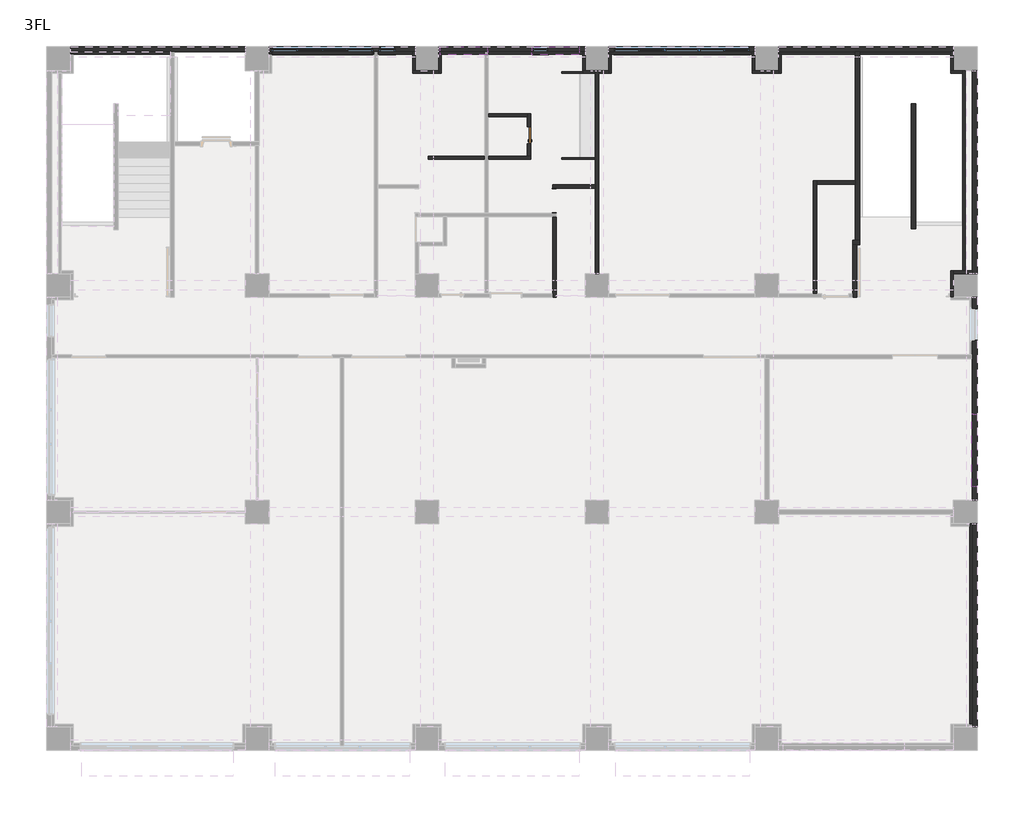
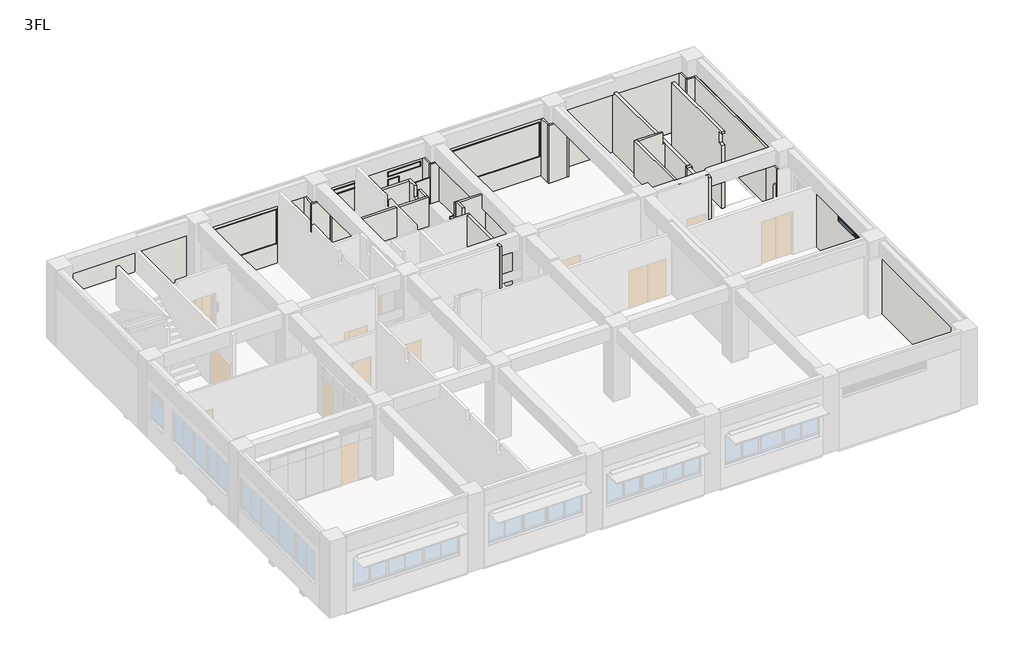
# One storey, part 3 of 6: 38 walls, 7 windows, 2 doors.
"""IFC4 building model written with IfcOpenShell, lengths in millimetres."""

from ifc_helpers import new_model, si_unit, frame, origin, place, context, project, spatial, polyline, outline, extrude, faceted_brep, transform, mapped, element, save
from components import door_14d6dc4f, door_cb1f44da, ag_06_22dadb70, ag_07_7ad97628, aw4_ca96b354, aw5_d07c3508, aw7_c792b8a0, aw9_efacfa99

model = new_model("IFC4")

# Units and contexts
model_context = context("Model", 3, world=origin())
ifc_project = project(units=[si_unit("LENGTHUNIT", "METRE", prefix="MILLI")], contexts=[model_context])

# Site, building, storey
site = spatial("IfcSite", under=ifc_project)
building = spatial("IfcBuilding", under=site)
storey = spatial("IfcBuildingStorey", under=building, Name="3FL", Elevation=8200.0)

# Doors
placement = place(None, origin())
door_shape = door_14d6dc4f(model_context)
element("IfcDoor", 1, ObjectType="営_三方枠 : S1_850*2000", at=placement, inside=storey, context=model_context, shape_type="MappedRepresentation", body=[
    mapped(door_shape, transform((17500.0, 18990.25, 8200.0), x_axis=(0.0, 1.0, 0.0), y_axis=(-1.0, 0.0, 0.0), z_axis=(0.0, 0.0, 1.0))),
])
door_2_shape = door_cb1f44da(model_context)
element("IfcDoor", 2, ObjectType="営_片開き扉 : SD7 600*2000", at=placement, inside=storey, context=model_context, shape_type="MappedRepresentation", body=[
    mapped(door_2_shape, transform((16600.0, 21310.0, 8200.0), x_axis=(0.0, 1.0, 0.0), y_axis=(-1.0, 0.0, 0.0), z_axis=(0.0, 0.0, 1.0))),
])

# Walls
element("IfcWall", 3, ObjectType="(外壁)RC150+20", at=placement, inside=storey, context=model_context, shape_type="Brep", body=[
    faceted_brep([(7420.0, 24250.0, 8100.0), (12580.0, 24250.0, 8100.0), (12580.0, 24250.0, 11350.0), (7420.0, 24250.0, 11350.0), (11310.0, 24250.0, 9265.0), (11310.0, 24250.0, 11120.0), (11890.0, 24250.0, 11120.0), (11890.0, 24250.0, 9265.0), (11090.0, 24250.0, 11120.0), (11090.0, 24250.0, 9265.0), (7510.0, 24250.0, 9265.0), (7510.0, 24250.0, 11120.0), (12580.0, 24420.0, 8100.0), (7420.0, 24420.0, 8100.0), (7420.0, 24420.0, 11350.0), (12580.0, 24420.0, 11350.0), (11340.0, 24420.0, 9175.0), (11860.0, 24420.0, 9175.0), (11860.0, 24420.0, 11095.0), (11340.0, 24420.0, 11095.0), (7540.0, 24420.0, 9175.0), (11060.0, 24420.0, 9175.0), (11060.0, 24420.0, 11095.0), (7540.0, 24420.0, 11095.0), (11310.0, 24260.0, 11120.0), (11310.0, 24260.0, 9265.0), (11890.0, 24260.0, 9265.0), (11890.0, 24260.0, 11120.0), (11880.0, 24260.0, 9265.0), (11320.0, 24260.0, 9265.0), (11320.0, 24260.0, 11115.0), (11880.0, 24260.0, 11115.0), (11320.0, 24260.0, 9195.0), (11320.0, 24360.0, 9182.5), (11320.0, 24360.0, 11115.0), (11880.0, 24360.0, 11115.0), (11880.0, 24360.0, 9182.5), (11880.0, 24260.0, 9195.0), (11860.0, 24360.0, 9182.5), (11340.0, 24360.0, 9182.5), (11340.0, 24360.0, 11095.0), (11860.0, 24360.0, 11095.0), (11090.0, 24260.0, 11120.0), (11090.0, 24260.0, 9265.0), (7510.0, 24260.0, 9265.0), (7510.0, 24260.0, 11120.0), (11080.0, 24260.0, 9265.0), (7520.0, 24260.0, 9265.0), (7520.0, 24260.0, 11115.0), (11080.0, 24260.0, 11115.0), (11080.0, 24360.0, 11115.0), (11080.0, 24360.0, 9182.5), (11080.0, 24260.0, 9195.0), (7520.0, 24260.0, 9195.0), (7520.0, 24360.0, 9182.5), (7520.0, 24360.0, 11115.0), (11060.0, 24360.0, 9182.5), (7540.0, 24360.0, 9182.5), (7540.0, 24360.0, 11095.0), (11060.0, 24360.0, 11095.0)], [[[0, 1, 2, 3], [4, 5, 6, 7], [8, 9, 10, 11]], [[12, 13, 14, 15], [16, 17, 18, 19], [20, 21, 22, 23]], [[0, 13, 12, 1]], [[24, 5, 4, 25]], [[26, 7, 6, 27]], [[25, 4, 7, 26, 28, 29]], [[24, 25, 29, 30, 31, 28, 26, 27]], [[5, 24, 27, 6]], [[30, 29, 32, 33, 34]], [[28, 31, 35, 36, 37]], [[33, 32, 37, 36, 38, 17, 16, 39]], [[34, 33, 39, 40, 41, 38, 36, 35]], [[31, 30, 34, 35]], [[29, 28, 37, 32]], [[39, 16, 19, 40]], [[17, 38, 41, 18]], [[41, 40, 19, 18]], [[42, 43, 9, 8]], [[44, 45, 11, 10]], [[9, 43, 46, 47, 44, 10]], [[43, 42, 45, 44, 47, 48, 49, 46]], [[42, 8, 11, 45]], [[46, 49, 50, 51, 52]], [[48, 47, 53, 54, 55]], [[52, 51, 56, 21, 20, 57, 54, 53]], [[51, 50, 55, 54, 57, 58, 59, 56]], [[49, 48, 55, 50]], [[47, 46, 52, 53]], [[21, 56, 59, 22]], [[57, 20, 23, 58]], [[59, 58, 23, 22]], [[13, 0, 3, 14]], [[1, 12, 15, 2]], [[3, 2, 15, 14]]]),
    faceted_brep([(13420.0, 24250.0, 8100.0), (18580.0, 24250.0, 8100.0), (18580.0, 24250.0, 11350.0), (13420.0, 24250.0, 11350.0), (16710.0, 24250.0, 9265.0), (16710.0, 24250.0, 10720.0), (17290.0, 24250.0, 10720.0), (17290.0, 24250.0, 9265.0), (18380.0, 24250.0, 11135.0), (18380.0, 24250.0, 10865.0), (16700.0, 24250.0, 10865.0), (16700.0, 24250.0, 11135.0), (15140.0, 24250.0, 11135.0), (15140.0, 24250.0, 10865.0), (13460.0, 24250.0, 10865.0), (13460.0, 24250.0, 11135.0), (18580.0, 24420.0, 8100.0), (13420.0, 24420.0, 8100.0), (13420.0, 24420.0, 11350.0), (18580.0, 24420.0, 11350.0), (16740.0, 24420.0, 9175.0), (17260.0, 24420.0, 9175.0), (17260.0, 24420.0, 10695.0), (16740.0, 24420.0, 10695.0), (16730.0, 24420.0, 10775.0), (18350.0, 24420.0, 10775.0), (18350.0, 24420.0, 11110.0), (16730.0, 24420.0, 11110.0), (13490.0, 24420.0, 10775.0), (15110.0, 24420.0, 10775.0), (15110.0, 24420.0, 11110.0), (13490.0, 24420.0, 11110.0), (16710.0, 24260.0, 10720.0), (16710.0, 24260.0, 9265.0), (17290.0, 24260.0, 9265.0), (17290.0, 24260.0, 10720.0), (17280.0, 24260.0, 9265.0), (16720.0, 24260.0, 9265.0), (16720.0, 24260.0, 10715.0), (17280.0, 24260.0, 10715.0), (16720.0, 24260.0, 9195.0), (16720.0, 24360.0, 9182.5), (16720.0, 24360.0, 10715.0), (17280.0, 24360.0, 10715.0), (17280.0, 24360.0, 9182.5), (17280.0, 24260.0, 9195.0), (17260.0, 24360.0, 9182.5), (16740.0, 24360.0, 9182.5), (16740.0, 24360.0, 10695.0), (17260.0, 24360.0, 10695.0), (18380.0, 24290.0, 11135.0), (18380.0, 24290.0, 10865.0), (16700.0, 24290.0, 10865.0), (16700.0, 24290.0, 11135.0), (18370.0, 24290.0, 10865.0), (16710.0, 24290.0, 10865.0), (16710.0, 24290.0, 11130.0), (18370.0, 24290.0, 11130.0), (18370.0, 24360.0, 11130.0), (18370.0, 24360.0, 10784.2307692), (18370.0, 24290.0, 10795.0), (16710.0, 24290.0, 10795.0), (16710.0, 24360.0, 10784.2307692), (16710.0, 24360.0, 11130.0), (18350.0, 24360.0, 10784.2307692), (16730.0, 24360.0, 10784.2307692), (16730.0, 24360.0, 11110.0), (18350.0, 24360.0, 11110.0), (15140.0, 24290.0, 11135.0), (15140.0, 24290.0, 10865.0), (13460.0, 24290.0, 10865.0), (13460.0, 24290.0, 11135.0), (15130.0, 24290.0, 10865.0), (13470.0, 24290.0, 10865.0), (13470.0, 24290.0, 11130.0), (15130.0, 24290.0, 11130.0), (15130.0, 24360.0, 11130.0), (15130.0, 24360.0, 10784.2307692), (15130.0, 24290.0, 10795.0), (13470.0, 24290.0, 10795.0), (13470.0, 24360.0, 10784.2307692), (13470.0, 24360.0, 11130.0), (15110.0, 24360.0, 10784.2307692), (13490.0, 24360.0, 10784.2307692), (13490.0, 24360.0, 11110.0), (15110.0, 24360.0, 11110.0)], [[[0, 1, 2, 3], [4, 5, 6, 7], [8, 9, 10, 11], [12, 13, 14, 15]], [[16, 17, 18, 19], [20, 21, 22, 23], [24, 25, 26, 27], [28, 29, 30, 31]], [[0, 17, 16, 1]], [[32, 5, 4, 33]], [[34, 7, 6, 35]], [[33, 4, 7, 34, 36, 37]], [[32, 33, 37, 38, 39, 36, 34, 35]], [[5, 32, 35, 6]], [[38, 37, 40, 41, 42]], [[36, 39, 43, 44, 45]], [[41, 40, 45, 44, 46, 21, 20, 47]], [[42, 41, 47, 48, 49, 46, 44, 43]], [[39, 38, 42, 43]], [[37, 36, 45, 40]], [[47, 20, 23, 48]], [[21, 46, 49, 22]], [[49, 48, 23, 22]], [[50, 51, 9, 8]], [[52, 53, 11, 10]], [[51, 54, 55, 52, 10, 9]], [[51, 50, 53, 52, 55, 56, 57, 54]], [[53, 50, 8, 11]], [[54, 57, 58, 59, 60]], [[56, 55, 61, 62, 63]], [[60, 59, 64, 25, 24, 65, 62, 61]], [[59, 58, 63, 62, 65, 66, 67, 64]], [[57, 56, 63, 58]], [[55, 54, 60, 61]], [[25, 64, 67, 26]], [[65, 24, 27, 66]], [[67, 66, 27, 26]], [[68, 69, 13, 12]], [[70, 71, 15, 14]], [[13, 69, 72, 73, 70, 14]], [[69, 68, 71, 70, 73, 74, 75, 72]], [[68, 12, 15, 71]], [[72, 75, 76, 77, 78]], [[74, 73, 79, 80, 81]], [[78, 77, 82, 29, 28, 83, 80, 79]], [[77, 76, 81, 80, 83, 84, 85, 82]], [[75, 74, 81, 76]], [[73, 72, 78, 79]], [[29, 82, 85, 30]], [[83, 28, 31, 84]], [[85, 84, 31, 30]], [[17, 0, 3, 18]], [[1, 16, 19, 2]], [[3, 2, 19, 18]]]),
    faceted_brep([(19420.0, 24250.0, 8100.0), (24580.0, 24250.0, 8100.0), (24580.0, 24250.0, 11350.0), (19420.0, 24250.0, 11350.0), (24410.0, 24250.0, 11120.0), (24410.0, 24250.0, 9265.0), (19590.0, 24250.0, 9265.0), (19590.0, 24250.0, 11120.0), (24580.0, 24420.0, 8100.0), (19420.0, 24420.0, 8100.0), (19420.0, 24420.0, 11350.0), (24580.0, 24420.0, 11350.0), (19620.0, 24420.0, 9175.0), (24380.0, 24420.0, 9175.0), (24380.0, 24420.0, 11095.0), (19620.0, 24420.0, 11095.0), (24410.0, 24260.0, 11120.0), (24410.0, 24260.0, 9265.0), (19590.0, 24260.0, 9265.0), (19590.0, 24260.0, 11120.0), (24400.0, 24260.0, 9265.0), (19600.0, 24260.0, 9265.0), (19600.0, 24260.0, 11115.0), (24400.0, 24260.0, 11115.0), (24400.0, 24360.0, 11115.0), (24400.0, 24360.0, 9182.5), (24400.0, 24260.0, 9195.0), (19600.0, 24260.0, 9195.0), (19600.0, 24360.0, 9182.5), (19600.0, 24360.0, 11115.0), (24380.0, 24360.0, 9182.5), (19620.0, 24360.0, 9182.5), (19620.0, 24360.0, 11095.0), (24380.0, 24360.0, 11095.0)], [[[0, 1, 2, 3], [4, 5, 6, 7]], [[8, 9, 10, 11], [12, 13, 14, 15]], [[0, 9, 8, 1]], [[16, 17, 5, 4]], [[18, 19, 7, 6]], [[5, 17, 20, 21, 18, 6]], [[17, 16, 19, 18, 21, 22, 23, 20]], [[16, 4, 7, 19]], [[20, 23, 24, 25, 26]], [[22, 21, 27, 28, 29]], [[26, 25, 30, 13, 12, 31, 28, 27]], [[25, 24, 29, 28, 31, 32, 33, 30]], [[23, 22, 29, 24]], [[21, 20, 26, 27]], [[13, 30, 33, 14]], [[31, 12, 15, 32]], [[33, 32, 15, 14]], [[9, 0, 3, 10]], [[1, 8, 11, 2]], [[3, 2, 11, 10]]]),
    faceted_brep([(25420.0, 24250.0, 8100.0), (31580.0, 24250.0, 8100.0), (31580.0, 24250.0, 11350.0), (25420.0, 24250.0, 11350.0), (31580.0, 24420.0, 8100.0), (25420.0, 24420.0, 8100.0), (25420.0, 24420.0, 11350.0), (31580.0, 24420.0, 11350.0)], [[[0, 1, 2, 3]], [[4, 5, 6, 7]], [[0, 5, 4, 1]], [[5, 0, 3, 6]], [[1, 4, 7, 2]], [[3, 2, 7, 6]]]),
    faceted_brep([(420.0, 24250.0, 8100.0), (6580.0, 24250.0, 8100.0), (6580.0, 24250.0, 11350.0), (420.0, 24250.0, 11350.0), (6580.0, 24420.0, 8100.0), (420.0, 24420.0, 8100.0), (420.0, 24420.0, 11350.0), (6580.0, 24420.0, 11350.0)], [[[0, 1, 2, 3]], [[4, 5, 6, 7]], [[4, 1, 0, 5]], [[1, 4, 7, 2]], [[5, 0, 3, 6]], [[3, 2, 7, 6]]]),
])
element("IfcWall", 4, ObjectType="(外壁)RC150+20", at=placement, inside=storey, context=model_context, shape_type="Brep", body=[
    faceted_brep([(32250.0, 7580.0, 8100.0), (32250.0, 420.0, 8100.0), (32250.0, 420.0, 11300.0), (32250.0, 7580.0, 11300.0), (32420.0, 420.0, 8100.0), (32420.0, 7580.0, 8100.0), (32420.0, 7580.0, 11300.0), (32420.0, 420.0, 11300.0), (32325.0, 420.0, 8100.0), (32325.0, 7580.0, 8100.0)], [[[0, 1, 2, 3]], [[4, 5, 6, 7]], [[4, 8, 1, 0, 9, 5]], [[1, 8, 4, 7, 2]], [[5, 9, 0, 3, 6]], [[3, 2, 7, 6]]]),
    faceted_brep([(32250.0, 15580.0, 8100.0), (32250.0, 8420.0, 8100.0), (32250.0, 8420.0, 11300.0), (32250.0, 15580.0, 11300.0), (32250.0, 14027.5, 10920.0), (32250.0, 14027.5, 9265.0), (32250.0, 15207.5, 9265.0), (32250.0, 15207.5, 10920.0), (32250.0, 8890.0, 11285.0), (32250.0, 8890.0, 10765.0), (32250.0, 11470.0, 10765.0), (32250.0, 11470.0, 11285.0), (32420.0, 8420.0, 8100.0), (32420.0, 15580.0, 8100.0), (32420.0, 15580.0, 11300.0), (32420.0, 8420.0, 11300.0), (32420.0, 15177.5, 9175.0), (32420.0, 14057.5, 9175.0), (32420.0, 14057.5, 10895.0), (32420.0, 15177.5, 10895.0), (32420.0, 11440.0, 10675.0), (32420.0, 8920.0, 10675.0), (32420.0, 8920.0, 11260.0), (32420.0, 11440.0, 11260.0), (32325.0, 8420.0, 8100.0), (32325.0, 15580.0, 8100.0), (32260.0, 14027.5, 10920.0), (32260.0, 14027.5, 9265.0), (32260.0, 15207.5, 9265.0), (32260.0, 15207.5, 10920.0), (32260.0, 14037.5, 9265.0), (32260.0, 15197.5, 9265.0), (32260.0, 15197.5, 10915.0), (32260.0, 14037.5, 10915.0), (32360.0, 14037.5, 10915.0), (32360.0, 14037.5, 9182.5), (32260.0, 14037.5, 9195.0), (32260.0, 15197.5, 9195.0), (32360.0, 15197.5, 9182.5), (32360.0, 15197.5, 10915.0), (32360.0, 14057.5, 9182.5), (32360.0, 15177.5, 9182.5), (32360.0, 15177.5, 10895.0), (32360.0, 14057.5, 10895.0), (32290.0, 8890.0, 11285.0), (32290.0, 8890.0, 10765.0), (32290.0, 11470.0, 10765.0), (32290.0, 11470.0, 11285.0), (32290.0, 8900.0, 10765.0), (32290.0, 11460.0, 10765.0), (32290.0, 11460.0, 11280.0), (32290.0, 8900.0, 11280.0), (32360.0, 8900.0, 11280.0), (32360.0, 8900.0, 10684.2307692), (32290.0, 8900.0, 10695.0), (32290.0, 11460.0, 10695.0), (32360.0, 11460.0, 10684.2307692), (32360.0, 11460.0, 11280.0), (32360.0, 8920.0, 10684.2307692), (32360.0, 11440.0, 10684.2307692), (32360.0, 11440.0, 11260.0), (32360.0, 8920.0, 11260.0)], [[[0, 1, 2, 3], [4, 5, 6, 7], [8, 9, 10, 11]], [[12, 13, 14, 15], [16, 17, 18, 19], [20, 21, 22, 23]], [[12, 24, 1, 0, 25, 13]], [[26, 27, 5, 4]], [[28, 29, 7, 6]], [[5, 27, 30, 31, 28, 6]], [[27, 26, 29, 28, 31, 32, 33, 30]], [[26, 4, 7, 29]], [[30, 33, 34, 35, 36]], [[32, 31, 37, 38, 39]], [[36, 35, 40, 17, 16, 41, 38, 37]], [[35, 34, 39, 38, 41, 42, 43, 40]], [[33, 32, 39, 34]], [[31, 30, 36, 37]], [[17, 40, 43, 18]], [[41, 16, 19, 42]], [[43, 42, 19, 18]], [[1, 24, 12, 15, 2]], [[13, 25, 0, 3, 14]], [[3, 2, 15, 14]], [[44, 45, 9, 8]], [[46, 47, 11, 10]], [[9, 45, 48, 49, 46, 10]], [[45, 44, 47, 46, 49, 50, 51, 48]], [[44, 8, 11, 47]], [[48, 51, 52, 53, 54]], [[50, 49, 55, 56, 57]], [[54, 53, 58, 21, 20, 59, 56, 55]], [[53, 52, 57, 56, 59, 60, 61, 58]], [[51, 50, 57, 52]], [[49, 48, 54, 55]], [[21, 58, 61, 22]], [[59, 20, 23, 60]], [[61, 60, 23, 22]]]),
    faceted_brep([(32250.0, 23580.0, 8100.0), (32250.0, 16420.0, 8100.0), (32250.0, 16420.0, 11300.0), (32250.0, 23580.0, 11300.0), (32420.0, 16420.0, 8100.0), (32420.0, 23580.0, 8100.0), (32420.0, 23580.0, 11300.0), (32420.0, 16420.0, 11300.0), (32325.0, 16420.0, 8100.0), (32325.0, 23580.0, 8100.0)], [[[0, 1, 2, 3]], [[4, 5, 6, 7]], [[4, 8, 1, 0, 9, 5]], [[1, 8, 4, 7, 2]], [[5, 9, 0, 3, 6]], [[3, 2, 7, 6]]]),
])
element("IfcWall", 5, ObjectType="(内壁)W4", at=placement, inside=storey, context=model_context, shape_type="Brep", body=[
    faceted_brep([(18940.0, 23580.0, 8200.0), (18940.0, 23490.0, 8200.0), (18940.0, 19550.0, 8200.0), (18940.0, 19430.0, 8200.0), (18940.0, 16420.0, 8200.0), (18940.0, 16420.0, 11300.0), (18940.0, 19430.0, 11300.0), (18940.0, 19550.0, 11300.0), (18940.0, 23490.0, 11300.0), (18940.0, 23580.0, 11300.0), (19060.0, 16420.0, 8200.0), (19060.0, 23490.0, 8200.0), (19060.0, 23580.0, 8200.0), (19060.0, 23580.0, 11300.0), (19060.0, 23490.0, 11300.0), (19060.0, 16420.0, 11300.0)], [[[0, 1, 2, 3, 4, 5, 6, 7, 8, 9]], [[10, 11, 12, 13, 14, 15]], [[10, 4, 3, 2, 1, 0, 12, 11]], [[4, 10, 15, 5]], [[12, 0, 9, 13]], [[9, 8, 7, 6, 5, 15, 14, 13]]]),
])
element("IfcWall", 6, ObjectType="(内壁)W3", at=placement, inside=storey, context=model_context, shape_type="Brep", body=[
    faceted_brep([(26640.0, 19695.0, 8200.0), (26640.0, 15700.0, 8200.0), (26640.0, 15700.0, 12050.0), (26640.0, 15825.0, 12050.0), (26640.0, 15825.0, 11350.0), (26640.0, 16175.0, 11350.0), (26640.0, 16175.0, 12050.0), (26640.0, 19695.0, 12050.0), (26760.0, 15700.0, 8200.0), (26760.0, 19575.0, 8200.0), (26760.0, 19695.0, 8200.0), (26760.0, 19695.0, 12050.0), (26760.0, 19575.0, 12050.0), (26760.0, 16175.0, 12050.0), (26760.0, 16175.0, 11350.0), (26760.0, 15825.0, 11350.0), (26760.0, 15825.0, 12050.0), (26760.0, 15700.0, 12050.0)], [[[0, 1, 2, 3, 4, 5, 6, 7]], [[8, 9, 10, 11, 12, 13, 14, 15, 16, 17]], [[1, 0, 10, 9, 8]], [[11, 7, 6, 13, 12]], [[2, 17, 16, 3]], [[0, 7, 11, 10]], [[2, 1, 8, 17]], [[15, 4, 3, 16]], [[4, 15, 14, 5]], [[5, 14, 13, 6]]]),
])
element("IfcWall", 7, ObjectType="(内壁)W3", at=placement, inside=storey, context=model_context, shape_type="SweptSolid", body=[
    extrude(outline(polyline([(8200.0, 26760.0), (8200.0, 28125.0), (11450.0, 28125.0), (11450.0, 28024.0), (12050.0, 28024.0), (12050.0, 26760.0), (8200.0, 26760.0)])), frame((0.0, 19575.0, 0.0), z_axis=(0.0, 1.0, 0.0), x_axis=(0.0, 0.0, 1.0)), (0.0, 0.0, 1.0), 120.0),
])
element("IfcWall", 8, ObjectType="(内壁)150_RC", at=placement, inside=storey, context=model_context, shape_type="Brep", body=[
    faceted_brep([(28175.0, 15580.0, 8200.0), (28175.0, 17445.0, 8200.0), (28175.0, 17445.0, 11450.0), (28175.0, 16175.0, 11450.0), (28175.0, 16175.0, 11350.0), (28175.0, 15825.0, 11350.0), (28175.0, 15825.0, 11450.0), (28175.0, 15825.0, 12050.0), (28175.0, 15580.0, 12050.0), (28025.0, 17445.0, 8200.0), (28025.0, 15700.0, 8200.0), (28025.0, 15580.0, 8200.0), (28025.0, 15580.0, 12050.0), (28025.0, 15825.0, 12050.0), (28025.0, 15825.0, 11450.0), (28025.0, 15825.0, 11350.0), (28025.0, 16175.0, 11350.0), (28025.0, 16175.0, 11450.0), (28025.0, 17445.0, 11450.0)], [[[0, 1, 2, 3, 4, 5, 6, 7, 8]], [[9, 10, 11, 12, 13, 14, 15, 16, 17, 18]], [[1, 0, 11, 10, 9]], [[8, 7, 13, 12]], [[1, 9, 18, 2]], [[5, 15, 14, 13, 7, 6]], [[15, 5, 4, 16]], [[16, 4, 3, 17]], [[3, 2, 18, 17]], [[0, 8, 12, 11]]]),
])
element("IfcWall", 9, ObjectType="(内壁)150_RC", at=placement, inside=storey, context=model_context, shape_type="Brep", body=[
    faceted_brep([(28025.0, 17445.0, 8200.0), (28175.0, 17445.0, 8200.0), (28275.0, 17445.0, 8200.0), (28275.0, 17445.0, 11450.0), (28175.0, 17445.0, 11450.0), (28025.0, 17445.0, 11450.0), (28275.0, 17595.0, 8200.0), (28125.0, 17595.0, 8200.0), (28025.0, 17595.0, 8200.0), (28025.0, 17595.0, 11450.0), (28125.0, 17595.0, 11450.0), (28275.0, 17595.0, 11450.0)], [[[0, 1, 2, 3, 4, 5]], [[6, 7, 8, 9, 10, 11]], [[2, 1, 0, 8, 7, 6]], [[8, 0, 5, 9]], [[2, 6, 11, 3]], [[5, 4, 3, 11, 10, 9]]]),
])
element("IfcWall", 10, ObjectType="(内壁)150_RC", at=placement, inside=storey, context=model_context, shape_type="Brep", body=[
    faceted_brep([(28275.0, 17595.0, 8200.0), (28275.0, 24160.0, 8200.0), (28275.0, 24250.0, 8200.0), (28275.0, 24250.0, 11350.0), (28275.0, 24160.0, 11350.0), (28275.0, 24050.0, 11350.0), (28275.0, 24050.0, 11450.0), (28275.0, 17595.0, 11450.0), (28125.0, 24250.0, 8200.0), (28125.0, 24160.0, 8200.0), (28125.0, 19695.0, 8200.0), (28125.0, 19575.0, 8200.0), (28125.0, 17595.0, 8200.0), (28125.0, 17595.0, 11450.0), (28125.0, 19575.0, 11450.0), (28125.0, 19695.0, 11450.0), (28125.0, 24050.0, 11450.0), (28125.0, 24050.0, 11350.0), (28125.0, 24160.0, 11350.0), (28125.0, 24250.0, 11350.0)], [[[0, 1, 2, 3, 4, 5, 6, 7]], [[8, 9, 10, 11, 12, 13, 14, 15, 16, 17, 18, 19]], [[2, 1, 0, 12, 11, 10, 9, 8]], [[13, 7, 6, 16, 15, 14]], [[0, 7, 13, 12]], [[2, 8, 19, 3]], [[5, 17, 16, 6]], [[17, 5, 4, 3, 19, 18]]]),
])
element("IfcWall", 11, ObjectType="(内壁)W4", at=placement, inside=storey, context=model_context, shape_type="Brep", body=[
    faceted_brep([(17440.0, 18430.0, 8200.0), (17440.0, 15700.0, 8200.0), (17440.0, 15580.0, 8200.0), (17440.0, 15580.0, 12050.0), (17440.0, 15700.0, 12050.0), (17440.0, 15825.0, 12050.0), (17440.0, 15825.0, 11350.0), (17440.0, 16175.0, 11350.0), (17440.0, 16175.0, 12050.0), (17440.0, 18430.0, 12050.0), (17560.0, 15580.0, 8200.0), (17560.0, 18430.0, 8200.0), (17560.0, 18430.0, 12050.0), (17560.0, 16175.0, 12050.0), (17560.0, 16175.0, 11350.0), (17560.0, 15825.0, 11350.0), (17560.0, 15825.0, 12050.0), (17560.0, 15580.0, 12050.0)], [[[0, 1, 2, 3, 4, 5, 6, 7, 8, 9]], [[10, 11, 12, 13, 14, 15, 16, 17]], [[2, 1, 0, 11, 10]], [[12, 9, 8, 13]], [[3, 17, 16, 5, 4]], [[0, 9, 12, 11]], [[15, 6, 5, 16]], [[6, 15, 14, 7]], [[7, 14, 13, 8]], [[3, 2, 10, 17]]]),
])
element("IfcWall", 12, ObjectType="(内壁)W4", at=placement, inside=storey, context=model_context, shape_type="SweptSolid", body=[
    extrude(outline(polyline([(8200.0, 13040.0), (8200.0, 15040.0), (12050.0, 15040.0), (12050.0, 13225.0), (11300.0, 13225.0), (11300.0, 13040.0), (8200.0, 13040.0)])), frame((0.0, 20450.0, 0.0), z_axis=(0.0, 1.0, 0.0), x_axis=(0.0, 0.0, 1.0)), (0.0, 0.0, 1.0), 120.0),
])
element("IfcWall", 13, ObjectType="(内壁)W3", at=placement, inside=storey, context=model_context, shape_type="Brep", body=[
    faceted_brep([(16660.0, 20570.0, 12050.0), (16660.0, 20570.0, 8200.0), (16660.0, 21010.0, 8200.0), (16660.0, 21010.0, 10200.0), (16660.0, 21610.0, 10200.0), (16660.0, 21610.0, 8200.0), (16660.0, 22070.0, 8200.0), (16660.0, 22070.0, 12050.0), (16660.0, 21515.0, 12050.0), (16660.0, 21515.0, 11450.0), (16660.0, 21165.0, 11450.0), (16660.0, 21165.0, 12050.0), (16540.0, 20570.0, 8200.0), (16540.0, 20570.0, 12050.0), (16540.0, 21165.0, 12050.0), (16540.0, 21165.0, 11450.0), (16540.0, 21515.0, 11450.0), (16540.0, 21515.0, 12050.0), (16540.0, 21950.0, 12050.0), (16540.0, 22070.0, 12050.0), (16540.0, 22070.0, 8200.0), (16540.0, 21950.0, 8200.0), (16540.0, 21610.0, 8200.0), (16540.0, 21610.0, 10200.0), (16540.0, 21010.0, 10200.0), (16540.0, 21010.0, 8200.0)], [[[0, 1, 2, 3, 4, 5, 6, 7, 8, 9, 10, 11]], [[12, 13, 14, 15, 16, 17, 18, 19, 20, 21, 22, 23, 24, 25]], [[1, 12, 25, 2]], [[20, 6, 5, 22, 21]], [[13, 0, 11, 14]], [[7, 19, 18, 17, 8]], [[1, 0, 13, 12]], [[7, 6, 20, 19]], [[25, 24, 3, 2]], [[23, 22, 5, 4]], [[24, 23, 4, 3]], [[10, 15, 14, 11]], [[15, 10, 9, 16]], [[16, 9, 8, 17]]]),
])
element("IfcWall", 14, ObjectType="(内壁)W3", at=placement, inside=storey, context=model_context, shape_type="SweptSolid", body=[
    extrude(outline(polyline([(15160.0, 22070.0), (16540.0, 22070.0), (16540.0, 21950.0), (15160.0, 21950.0), (15160.0, 22070.0)])), frame((0.0, 0.0, 8200.0), z_axis=(0.0, 0.0, 1.0), x_axis=(1.0, 0.0, 0.0)), (0.0, 0.0, 1.0), 3850.0),
])
element("IfcWall", 15, ObjectType="(内壁)W4", at=placement, inside=storey, context=model_context, shape_type="Brep", body=[
    faceted_brep([(17440.0, 19430.0, 8200.0), (17560.0, 19430.0, 8200.0), (18940.0, 19430.0, 8200.0), (18940.0, 19430.0, 11300.0), (18775.0, 19430.0, 11300.0), (18775.0, 19430.0, 12050.0), (17440.0, 19430.0, 12050.0), (18940.0, 19550.0, 8200.0), (17440.0, 19550.0, 8200.0), (17440.0, 19550.0, 12050.0), (18775.0, 19550.0, 12050.0), (18775.0, 19550.0, 11300.0), (18940.0, 19550.0, 11300.0)], [[[0, 1, 2, 3, 4, 5, 6]], [[7, 8, 9, 10, 11, 12]], [[2, 1, 0, 8, 7]], [[9, 6, 5, 10]], [[2, 7, 12, 3]], [[11, 4, 3, 12]], [[4, 11, 10, 5]], [[0, 6, 9, 8]]]),
])
element("IfcWall", 16, ObjectType="(内壁)120_部屋境界OFF", at=placement, inside=storey, context=model_context, shape_type="Brep", body=[
    faceted_brep([(17560.0, 18550.0, 8200.0), (17560.0, 18555.25, 8200.0), (17560.0, 18555.25, 10210.0), (17560.0, 19425.25, 10210.0), (17560.0, 19425.25, 8200.0), (17560.0, 19430.0, 8200.0), (17560.0, 19430.0, 12150.0), (17560.0, 18845.0, 12150.0), (17560.0, 18845.0, 11450.0), (17560.0, 18550.0, 11450.0), (17440.0, 18555.25, 8200.0), (17440.0, 18550.0, 8200.0), (17440.0, 18550.0, 11450.0), (17440.0, 18845.0, 11450.0), (17440.0, 18845.0, 12150.0), (17440.0, 19430.0, 12150.0), (17440.0, 19430.0, 12050.0), (17440.0, 19430.0, 8200.0), (17440.0, 19425.25, 8200.0), (17440.0, 19425.25, 10210.0), (17440.0, 18555.25, 10210.0)], [[[0, 1, 2, 3, 4, 5, 6, 7, 8, 9]], [[10, 11, 12, 13, 14, 15, 16, 17, 18, 19, 20]], [[11, 10, 1, 0]], [[5, 4, 18, 17]], [[6, 15, 14, 7]], [[11, 0, 9, 12]], [[6, 5, 17, 16, 15]], [[20, 2, 1, 10]], [[2, 20, 19, 3]], [[3, 19, 18, 4]], [[8, 13, 12, 9]], [[13, 8, 7, 14]]]),
])
element("IfcWall", 17, ObjectType="(内壁)W3", at=placement, inside=storey, context=model_context, shape_type="Brep", body=[
    faceted_brep([(15160.0, 20450.0, 8200.0), (16660.0, 20450.0, 8200.0), (16660.0, 20450.0, 12050.0), (15160.0, 20450.0, 12050.0), (15160.0, 20570.0, 8200.0), (15160.0, 20570.0, 12050.0), (16540.0, 20570.0, 12050.0), (16660.0, 20570.0, 12050.0), (16660.0, 20570.0, 8200.0), (16540.0, 20570.0, 8200.0)], [[[0, 1, 2, 3]], [[4, 5, 6, 7, 8, 9]], [[1, 0, 4, 9, 8]], [[3, 2, 7, 6, 5]], [[2, 1, 8, 7]], [[0, 3, 5, 4]]]),
])
element("IfcWall", 18, ObjectType="(内壁)ブース壁", at=placement, inside=storey, context=model_context, shape_type="SweptSolid", body=[
    extrude(outline(polyline([(17760.0, 20500.0), (18940.0, 20500.0), (18940.0, 20450.0), (17760.0, 20450.0), (17760.0, 20500.0)])), frame((0.0, 0.0, 8200.0), z_axis=(0.0, 0.0, 1.0), x_axis=(1.0, 0.0, 0.0)), (0.0, 0.0, 1.0), 2400.0),
])
element("IfcWall", 19, ObjectType="(内壁)ブース壁", at=placement, inside=storey, context=model_context, shape_type="SweptSolid", body=[
    extrude(outline(polyline([(17750.0, 23540.0), (18490.0, 23540.0), (18490.0, 23490.0), (17750.0, 23490.0), (17750.0, 23540.0)])), frame((0.0, 0.0, 8200.0), z_axis=(0.0, 0.0, 1.0), x_axis=(1.0, 0.0, 0.0)), (0.0, 0.0, 1.0), 2400.0),
])
element("IfcWall", 20, ObjectType="(内壁)150_RC", at=placement, inside=storey, context=model_context, shape_type="Brep", body=[
    faceted_brep([(30105.0, 22410.0, 8200.0), (30105.0, 18000.0, 8200.0), (30105.0, 18000.0, 11600.0), (30105.0, 18225.0, 11600.0), (30105.0, 18225.0, 12140.0), (30105.0, 18225.0, 12200.0), (30105.0, 18005.0, 12200.0), (30105.0, 18000.0, 12200.0), (30105.0, 18000.0, 12300.0), (30105.0, 22410.0, 12300.0), (30255.0, 18000.0, 8200.0), (30255.0, 22410.0, 8200.0), (30255.0, 22410.0, 12300.0), (30255.0, 18000.0, 12300.0), (30255.0, 18000.0, 12200.0), (30255.0, 18005.0, 12200.0), (30255.0, 18100.0, 12200.0), (30255.0, 18225.0, 12200.0), (30255.0, 18225.0, 11600.0), (30255.0, 18000.0, 11600.0)], [[[0, 1, 2, 3, 4, 5, 6, 7, 8, 9]], [[10, 11, 12, 13, 14, 15, 16, 17, 18, 19]], [[1, 0, 11, 10]], [[1, 10, 19, 2]], [[13, 8, 7, 14]], [[9, 8, 13, 12]], [[0, 9, 12, 11]], [[18, 3, 2, 19]], [[3, 18, 17, 5, 4]], [[5, 17, 16, 15, 14, 7, 6]]]),
])
element("IfcWall", 21, ObjectType="(内壁)W5", at=placement, inside=storey, context=model_context, shape_type="Brep", body=[
    faceted_brep([(31580.0, 15580.0, 8200.0), (31580.0, 16420.0, 8200.0), (31580.0, 16510.0, 8200.0), (31580.0, 16510.0, 11300.0), (31580.0, 16420.0, 11300.0), (31580.0, 15580.0, 11300.0), (31490.0, 15580.0, 8200.0), (31490.0, 15580.0, 11300.0), (31490.0, 16510.0, 11300.0), (31490.0, 16510.0, 8200.0)], [[[0, 1, 2, 3, 4, 5]], [[6, 7, 8, 9]], [[2, 1, 0, 6, 9]], [[5, 4, 3, 8, 7]], [[0, 5, 7, 6]], [[3, 2, 9, 8]]]),
])
element("IfcWall", 22, ObjectType="(内壁)W5", at=placement, inside=storey, context=model_context, shape_type="Brep", body=[
    faceted_brep([(31580.0, 16420.0, 8200.0), (32250.0, 16420.0, 8200.0), (32250.0, 16420.0, 11300.0), (31580.0, 16420.0, 11300.0), (31580.0, 16510.0, 8200.0), (31580.0, 16510.0, 11300.0), (31919.7329181, 16510.0, 11300.0), (32009.7329181, 16510.0, 11300.0), (32250.0, 16510.0, 11300.0), (32250.0, 16510.0, 8200.0), (32009.7329181, 16510.0, 8200.0), (31919.7329181, 16510.0, 8200.0)], [[[0, 1, 2, 3]], [[4, 5, 6, 7, 8, 9, 10, 11]], [[1, 0, 4, 11, 10, 9]], [[3, 2, 8, 7, 6, 5]], [[0, 3, 5, 4]], [[2, 1, 9, 8]]]),
])
element("IfcWall", 23, ObjectType="(内壁)W5", at=placement, inside=storey, context=model_context, shape_type="Brep", body=[
    faceted_brep([(32009.7329181, 16510.0, 8200.0), (32009.7329181, 23580.0, 8200.0), (32009.7329181, 23580.0, 11300.0), (32009.7329181, 16510.0, 11300.0), (31919.7329181, 16510.0, 8200.0), (31919.7329181, 16510.0, 11300.0), (31919.7329181, 23490.0, 11300.0), (31919.7329181, 23580.0, 11300.0), (31919.7329181, 23580.0, 8200.0), (31919.7329181, 23490.0, 8200.0)], [[[0, 1, 2, 3]], [[4, 5, 6, 7, 8, 9]], [[1, 0, 4, 9, 8]], [[3, 2, 7, 6, 5]], [[0, 3, 5, 4]], [[2, 1, 8, 7]]]),
])
element("IfcWall", 24, ObjectType="(内壁)W5", at=placement, inside=storey, context=model_context, shape_type="Brep", body=[
    faceted_brep([(31919.7329181, 23580.0, 8200.0), (31580.0, 23580.0, 8200.0), (31490.0, 23580.0, 8200.0), (31490.0, 23580.0, 11300.0), (31580.0, 23580.0, 11300.0), (31919.7329181, 23580.0, 11300.0), (31919.7329181, 23490.0, 8200.0), (31919.7329181, 23490.0, 11300.0), (31490.0, 23490.0, 11300.0), (31490.0, 23490.0, 8200.0)], [[[0, 1, 2, 3, 4, 5]], [[6, 7, 8, 9]], [[2, 1, 0, 6, 9]], [[5, 4, 3, 8, 7]], [[0, 5, 7, 6]], [[3, 2, 9, 8]]]),
])
element("IfcWall", 25, ObjectType="(内壁)W5", at=placement, inside=storey, context=model_context, shape_type="Brep", body=[
    faceted_brep([(31580.0, 23580.0, 8200.0), (31580.0, 24250.0, 8200.0), (31580.0, 24250.0, 11300.0), (31580.0, 23580.0, 11300.0), (31490.0, 23580.0, 8200.0), (31490.0, 23580.0, 11300.0), (31490.0, 24250.0, 11300.0), (31490.0, 24250.0, 8200.0), (31490.0, 24160.0, 8200.0)], [[[0, 1, 2, 3]], [[4, 5, 6, 7, 8]], [[1, 0, 4, 8, 7]], [[3, 2, 6, 5]], [[0, 3, 5, 4]], [[2, 1, 7, 6]]]),
])
element("IfcWall", 26, ObjectType="(内壁)W5", at=placement, inside=storey, context=model_context, shape_type="Brep", body=[
    faceted_brep([(31490.0, 24250.0, 11350.0), (31490.0, 24250.0, 11300.0), (31490.0, 24250.0, 8200.0), (28275.0, 24250.0, 8200.0), (28275.0, 24250.0, 11350.0), (31490.0, 24160.0, 8200.0), (31490.0, 24160.0, 11350.0), (28275.0, 24160.0, 11350.0), (28275.0, 24160.0, 8200.0)], [[[0, 1, 2, 3, 4]], [[5, 6, 7, 8]], [[2, 5, 8, 3]], [[6, 0, 4, 7]], [[2, 1, 0, 6, 5]], [[4, 3, 8, 7]]]),
    faceted_brep([(25420.0, 24250.0, 8200.0), (25420.0, 24250.0, 11350.0), (28125.0, 24250.0, 11350.0), (28125.0, 24250.0, 8200.0), (25420.0, 24160.0, 11350.0), (25420.0, 24160.0, 11300.0), (25420.0, 24160.0, 8200.0), (25510.0, 24160.0, 8200.0), (28125.0, 24160.0, 8200.0), (28125.0, 24160.0, 11350.0)], [[[0, 1, 2, 3]], [[4, 5, 6, 7, 8, 9]], [[6, 0, 3, 8, 7]], [[1, 4, 9, 2]], [[1, 0, 6, 5, 4]], [[3, 2, 9, 8]]]),
])
element("IfcWall", 27, ObjectType="(内壁)W5", at=placement, inside=storey, context=model_context, shape_type="Brep", body=[
    faceted_brep([(25420.0, 24160.0, 8200.0), (25420.0, 23580.0, 8200.0), (25420.0, 23490.0, 8200.0), (25420.0, 23490.0, 11300.0), (25420.0, 23580.0, 11300.0), (25420.0, 24160.0, 11300.0), (25510.0, 24160.0, 8200.0), (25510.0, 24160.0, 11300.0), (25510.0, 23490.0, 11300.0), (25510.0, 23490.0, 8200.0)], [[[0, 1, 2, 3, 4, 5]], [[6, 7, 8, 9]], [[2, 1, 0, 6, 9]], [[5, 4, 3, 8, 7]], [[0, 5, 7, 6]], [[3, 2, 9, 8]]]),
])
element("IfcWall", 28, ObjectType="(内壁)W5", at=placement, inside=storey, context=model_context, shape_type="Brep", body=[
    faceted_brep([(25420.0, 23580.0, 8200.0), (24580.0, 23580.0, 8200.0), (24490.0, 23580.0, 8200.0), (24490.0, 23580.0, 11300.0), (24580.0, 23580.0, 11300.0), (25420.0, 23580.0, 11300.0), (25420.0, 23490.0, 8200.0), (25420.0, 23490.0, 11300.0), (24490.0, 23490.0, 11300.0), (24490.0, 23490.0, 8200.0)], [[[0, 1, 2, 3, 4, 5]], [[6, 7, 8, 9]], [[2, 1, 0, 6, 9]], [[5, 4, 3, 8, 7]], [[0, 5, 7, 6]], [[3, 2, 9, 8]]]),
])
element("IfcWall", 29, ObjectType="(内壁)W5", at=placement, inside=storey, context=model_context, shape_type="Brep", body=[
    faceted_brep([(24580.0, 23580.0, 8200.0), (24580.0, 24250.0, 8200.0), (24580.0, 24250.0, 11300.0), (24580.0, 23580.0, 11300.0), (24490.0, 23580.0, 8200.0), (24490.0, 23580.0, 11300.0), (24490.0, 24160.0, 11300.0), (24490.0, 24250.0, 11300.0), (24490.0, 24250.0, 8200.0), (24490.0, 24160.0, 8200.0)], [[[0, 1, 2, 3]], [[4, 5, 6, 7, 8, 9]], [[1, 0, 4, 9, 8]], [[3, 2, 7, 6, 5]], [[0, 3, 5, 4]], [[2, 1, 8, 7]]]),
])
element("IfcWall", 30, ObjectType="(内壁)W5", at=placement, inside=storey, context=model_context, shape_type="Brep", body=[
    faceted_brep([(24490.0, 24250.0, 8200.0), (19420.0, 24250.0, 8200.0), (19420.0, 24250.0, 11300.0), (24490.0, 24250.0, 11300.0), (19420.0, 24160.0, 8200.0), (19510.0, 24160.0, 8200.0), (24490.0, 24160.0, 8200.0), (24490.0, 24160.0, 11300.0), (19510.0, 24160.0, 11300.0), (19420.0, 24160.0, 11300.0)], [[[0, 1, 2, 3]], [[4, 5, 6, 7, 8, 9]], [[1, 0, 6, 5, 4]], [[3, 2, 9, 8, 7]], [[0, 3, 7, 6]], [[2, 1, 4, 9]]]),
])
element("IfcWall", 31, ObjectType="(内壁)W5", at=placement, inside=storey, context=model_context, shape_type="Brep", body=[
    faceted_brep([(19420.0, 24160.0, 8200.0), (19420.0, 23580.0, 8200.0), (19420.0, 23490.0, 8200.0), (19420.0, 23490.0, 11300.0), (19420.0, 23580.0, 11300.0), (19420.0, 24160.0, 11300.0), (19510.0, 24160.0, 8200.0), (19510.0, 24160.0, 11300.0), (19510.0, 23490.0, 11300.0), (19510.0, 23490.0, 8200.0)], [[[0, 1, 2, 3, 4, 5]], [[6, 7, 8, 9]], [[2, 1, 0, 6, 9]], [[5, 4, 3, 8, 7]], [[0, 5, 7, 6]], [[3, 2, 9, 8]]]),
])
element("IfcWall", 32, ObjectType="(内壁)W5", at=placement, inside=storey, context=model_context, shape_type="Brep", body=[
    faceted_brep([(19420.0, 23580.0, 11300.0), (19420.0, 23580.0, 8200.0), (19060.0, 23580.0, 8200.0), (19060.0, 23580.0, 11300.0), (19420.0, 23490.0, 8200.0), (19420.0, 23490.0, 11300.0), (19060.0, 23490.0, 11300.0), (19060.0, 23490.0, 8200.0)], [[[0, 1, 2, 3]], [[4, 5, 6, 7]], [[1, 4, 7, 2]], [[5, 0, 3, 6]], [[1, 0, 5, 4]], [[3, 2, 7, 6]]]),
    faceted_brep([(18490.0, 23580.0, 8200.0), (18490.0, 23580.0, 11300.0), (18580.0, 23580.0, 11300.0), (18940.0, 23580.0, 11300.0), (18940.0, 23580.0, 8200.0), (18580.0, 23580.0, 8200.0), (18490.0, 23490.0, 11300.0), (18490.0, 23490.0, 8200.0), (18940.0, 23490.0, 8200.0), (18940.0, 23490.0, 11300.0)], [[[0, 1, 2, 3, 4, 5]], [[6, 7, 8, 9]], [[7, 0, 5, 4, 8]], [[1, 6, 9, 3, 2]], [[1, 0, 7, 6]], [[4, 3, 9, 8]]]),
])
element("IfcWall", 33, ObjectType="(内壁)W5", at=placement, inside=storey, context=model_context, shape_type="Brep", body=[
    faceted_brep([(18580.0, 23580.0, 8200.0), (18580.0, 24250.0, 8200.0), (18580.0, 24250.0, 11300.0), (18580.0, 23580.0, 11300.0), (18490.0, 23580.0, 8200.0), (18490.0, 23580.0, 11300.0), (18490.0, 24160.0, 11300.0), (18490.0, 24250.0, 11300.0), (18490.0, 24250.0, 8200.0), (18490.0, 24160.0, 8200.0)], [[[0, 1, 2, 3]], [[4, 5, 6, 7, 8, 9]], [[1, 0, 4, 9, 8]], [[3, 2, 7, 6, 5]], [[0, 3, 5, 4]], [[2, 1, 8, 7]]]),
])
element("IfcWall", 34, ObjectType="(内壁)W5", at=placement, inside=storey, context=model_context, shape_type="Brep", body=[
    faceted_brep([(18490.0, 24250.0, 11300.0), (18490.0, 24250.0, 8200.0), (15160.0, 24250.0, 8200.0), (15160.0, 24250.0, 11300.0), (18490.0, 24160.0, 8200.0), (18490.0, 24160.0, 11300.0), (15160.0, 24160.0, 11300.0), (15160.0, 24160.0, 8200.0)], [[[0, 1, 2, 3]], [[4, 5, 6, 7]], [[1, 4, 7, 2]], [[5, 0, 3, 6]], [[1, 0, 5, 4]], [[3, 2, 7, 6]]]),
    faceted_brep([(13420.0, 24250.0, 8200.0), (13420.0, 24250.0, 11300.0), (15040.0, 24250.0, 11300.0), (15040.0, 24250.0, 8200.0), (13420.0, 24160.0, 11300.0), (13420.0, 24160.0, 8200.0), (13510.0, 24160.0, 8200.0), (15040.0, 24160.0, 8200.0), (15040.0, 24160.0, 11300.0), (13510.0, 24160.0, 11300.0)], [[[0, 1, 2, 3]], [[4, 5, 6, 7, 8, 9]], [[5, 0, 3, 7, 6]], [[1, 4, 9, 8, 2]], [[1, 0, 5, 4]], [[3, 2, 8, 7]]]),
])
element("IfcWall", 35, ObjectType="(内壁)W5", at=placement, inside=storey, context=model_context, shape_type="Brep", body=[
    faceted_brep([(13420.0, 24160.0, 8200.0), (13420.0, 23580.0, 8200.0), (13420.0, 23490.0, 8200.0), (13420.0, 23490.0, 11300.0), (13420.0, 23580.0, 11300.0), (13420.0, 24160.0, 11300.0), (13510.0, 24160.0, 8200.0), (13510.0, 24160.0, 11300.0), (13510.0, 23490.0, 11300.0), (13510.0, 23490.0, 8200.0)], [[[0, 1, 2, 3, 4, 5]], [[6, 7, 8, 9]], [[2, 1, 0, 6, 9]], [[5, 4, 3, 8, 7]], [[0, 5, 7, 6]], [[3, 2, 9, 8]]]),
])
element("IfcWall", 36, ObjectType="(内壁)W5", at=placement, inside=storey, context=model_context, shape_type="Brep", body=[
    faceted_brep([(13420.0, 23580.0, 8200.0), (12580.0, 23580.0, 8200.0), (12490.0, 23580.0, 8200.0), (12490.0, 23580.0, 11300.0), (12580.0, 23580.0, 11300.0), (13420.0, 23580.0, 11300.0), (13420.0, 23490.0, 8200.0), (13420.0, 23490.0, 11300.0), (12490.0, 23490.0, 11300.0), (12490.0, 23490.0, 8200.0)], [[[0, 1, 2, 3, 4, 5]], [[6, 7, 8, 9]], [[2, 1, 0, 6, 9]], [[5, 4, 3, 8, 7]], [[0, 5, 7, 6]], [[3, 2, 9, 8]]]),
])
element("IfcWall", 37, ObjectType="(内壁)W5", at=placement, inside=storey, context=model_context, shape_type="Brep", body=[
    faceted_brep([(12580.0, 23580.0, 8200.0), (12580.0, 24250.0, 8200.0), (12580.0, 24250.0, 11300.0), (12580.0, 23580.0, 11300.0), (12490.0, 23580.0, 8200.0), (12490.0, 23580.0, 11300.0), (12490.0, 24160.6075581, 11300.0), (12490.0, 24250.0, 11300.0), (12490.0, 24250.0, 8200.0), (12490.0, 24160.6075581, 8200.0)], [[[0, 1, 2, 3]], [[4, 5, 6, 7, 8, 9]], [[1, 0, 4, 9, 8]], [[3, 2, 7, 6, 5]], [[0, 3, 5, 4]], [[2, 1, 8, 7]]]),
])
element("IfcWall", 38, ObjectType="(内壁)W5", at=placement, inside=storey, context=model_context, shape_type="Brep", body=[
    faceted_brep([(12490.0, 24250.6075581, 8200.0), (7420.0, 24250.6075581, 8200.0), (7420.0, 24250.6075581, 11300.0), (12490.0, 24250.6075581, 11300.0), (7420.0, 24160.6075581, 8200.0), (7510.0, 24160.6075581, 8200.0), (12490.0, 24160.6075581, 8200.0), (12490.0, 24160.6075581, 11300.0), (7510.0, 24160.6075581, 11300.0), (7420.0, 24160.6075581, 11300.0), (12490.0, 24250.0, 8200.0), (12490.0, 24250.0, 11300.0)], [[[0, 1, 2, 3]], [[4, 5, 6, 7, 8, 9]], [[1, 0, 10, 6, 5, 4]], [[3, 2, 9, 8, 7, 11]], [[2, 1, 4, 9]], [[0, 3, 11, 7, 6, 10]]]),
])
element("IfcWall", 39, ObjectType="(内壁)W5", at=placement, inside=storey, context=model_context, shape_type="Brep", body=[
    faceted_brep([(3925.0, 24250.0, 8200.0), (420.0, 24250.0, 8200.0), (420.0, 24250.0, 11300.0), (3925.0, 24250.0, 11300.0), (3925.0, 24160.0, 8200.0), (3925.0, 24160.0, 11300.0), (510.0, 24160.0, 11300.0), (420.0, 24160.0, 11300.0), (420.0, 24160.0, 8200.0), (510.0, 24160.0, 8200.0)], [[[0, 1, 2, 3]], [[4, 5, 6, 7, 8, 9]], [[1, 0, 4, 9, 8]], [[3, 2, 7, 6, 5]], [[2, 1, 8, 7]], [[0, 3, 5, 4]]]),
])
element("IfcWall", 40, ObjectType="(内壁)W5", at=placement, inside=storey, context=model_context, shape_type="Brep", body=[
    faceted_brep([(32250.0, 510.0, 8100.0), (32250.0, 7580.0, 8100.0), (32250.0, 7580.0, 11300.0), (32250.0, 510.0, 11300.0), (32160.0, 510.0, 8100.0), (32160.0, 510.0, 11300.0), (32160.0, 7490.0, 11300.0), (32160.0, 7580.0, 11300.0), (32160.0, 7580.0, 8100.0), (32160.0, 7490.0, 8100.0)], [[[0, 1, 2, 3]], [[4, 5, 6, 7, 8, 9]], [[1, 0, 4, 9, 8]], [[3, 2, 7, 6, 5]], [[0, 3, 5, 4]], [[2, 1, 8, 7]]]),
])

# Windows
ag_06_shape = ag_06_22dadb70(model_context)
element("IfcWindow", 41, ObjectType="営_単窓_ガラリ : AG-06", at=placement, inside=storey, context=model_context, shape_type="MappedRepresentation", body=[
    mapped(ag_06_shape, transform((32335.0, 10180.0, 9600.0), x_axis=(0.0, -1.0, 0.0), y_axis=(1.0, 0.0, 0.0), z_axis=(0.0, 0.0, 1.0))),
])
ag_07_shape = ag_07_7ad97628(model_context)
element("IfcWindow", 42, ObjectType="営_単窓_ガラリ : AG-07", at=placement, inside=storey, context=model_context, shape_type="MappedRepresentation", body=[
    mapped(ag_07_shape, transform((17540.0, 24335.0, 9700.0), x_axis=(1.0, 0.0, 0.0), y_axis=(0.0, 1.0, 0.0), z_axis=(0.0, 0.0, 1.0))),
])
element("IfcWindow", 43, ObjectType="営_単窓_ガラリ : AG-07", at=placement, inside=storey, context=model_context, shape_type="MappedRepresentation", body=[
    mapped(ag_07_shape, transform((14300.0, 24335.0, 9700.0), x_axis=(1.0, 0.0, 0.0), y_axis=(0.0, 1.0, 0.0), z_axis=(0.0, 0.0, 1.0))),
])
aw4_shape = aw4_ca96b354(model_context)
element("IfcWindow", 44, ObjectType="営_連段窓_引違い+FIX/ガラリ : AW4", at=placement, inside=storey, context=model_context, shape_type="MappedRepresentation", body=[
    mapped(aw4_shape, transform((22000.0, 24335.0, 8200.0), x_axis=(1.0, 0.0, 0.0), y_axis=(0.0, 1.0, 0.0), z_axis=(0.0, 0.0, 1.0))),
])
aw5_shape = aw5_d07c3508(model_context)
element("IfcWindow", 45, ObjectType="営_連段窓_引違い/ガラリ : AW5", at=placement, inside=storey, context=model_context, shape_type="MappedRepresentation", body=[
    mapped(aw5_shape, transform((9300.0, 24335.0, 8200.0), x_axis=(1.0, 0.0, 0.0), y_axis=(0.0, 1.0, 0.0), z_axis=(0.0, 0.0, 1.0))),
])
aw7_shape = aw7_c792b8a0(model_context)
element("IfcWindow", 46, ObjectType="営_単窓_縦辷出し : AW7", at=placement, inside=storey, context=model_context, shape_type="MappedRepresentation", body=[
    mapped(aw7_shape, transform((17000.0, 24335.0, 8250.0), x_axis=(-1.0, 0.0, 0.0), y_axis=(0.0, -1.0, 0.0), z_axis=(0.0, 0.0, 1.0))),
])
aw9_shape = aw9_efacfa99(model_context)
element("IfcWindow", 47, ObjectType="営_段窓_縦辷出し/ガラリ : AW9", at=placement, inside=storey, context=model_context, shape_type="MappedRepresentation", body=[
    mapped(aw9_shape, transform((11600.0, 24335.0, 8200.0), x_axis=(-1.0, 0.0, 0.0), y_axis=(0.0, -1.0, 0.0), z_axis=(0.0, 0.0, 1.0))),
])

save(model, "model.ifc")
